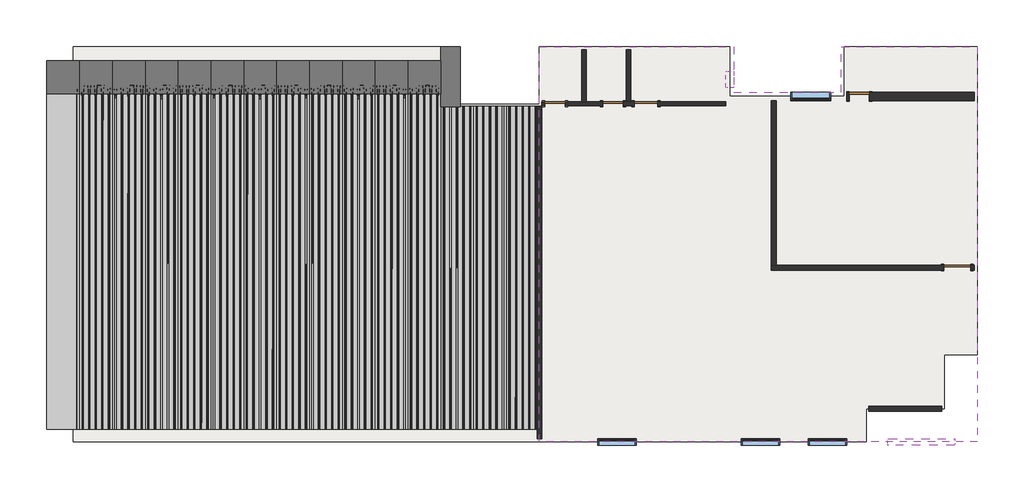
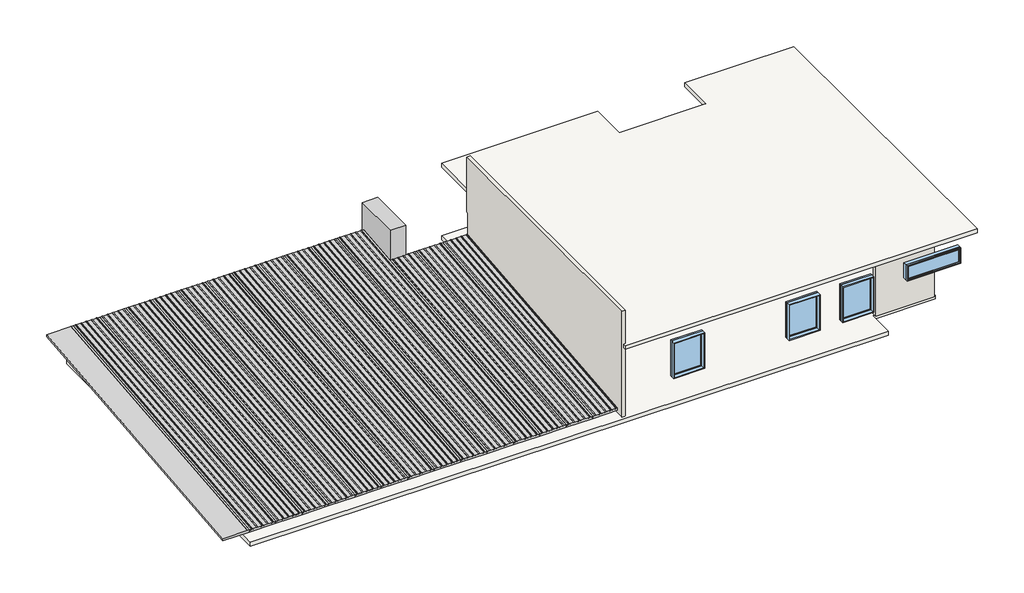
# One storey: 16 plates, 15 members, 8 walls, 6 windows, 5 doors, 2 slabs, 1 proxy.
"""IFC4 building model written with IfcOpenShell, lengths in millimetres."""

from ifc_helpers import new_model, si_unit, frame, origin, place, context, project, spatial, polyline, outline, extrude, faceted_brep, transform, mapped, element, save
from components import door_0600_x_2100mm_ea00ed2a, door_0600_x_2100mm_27d3e4cd, door_0600_x_2100mm_5e2a27a3, door_0700_x_2100mm_2c9cfd51, door_0800_x_2100mm_905e31af, rectangular_mullion_a8e6dcc2, rectangular_mullion_7b8b6f2e, rectangular_mullion_e1a64eea, rectangular_mullion_30670395, rectangular_mullion_d9d28a80, empty_system_panel_vazio_7c1384e1, empty_system_panel_vazio_a9720741, empty_system_panel_vazio_e37dec19, empty_system_panel_vazio_d884d467, empty_system_panel_vazio_d8e21128, empty_system_panel_vazio_bbd75919, empty_system_panel_vazio_9f99d891, empty_system_panel_vazio_354873e3, m_fixo_0500_x_1000mm_87394ae6, m_fixo_1150_x_1400mm_b22465d1, m_fixo_1200_x_1400mm_b9efbf31, m_fixo_2000_x_0600mm_7e42a1bc

model = new_model("IFC4")

# Units and contexts
model_context = context("Model", 3, world=origin())
ifc_project = project(units=[si_unit("LENGTHUNIT", "METRE", prefix="MILLI")], contexts=[model_context])

# Site, building, storey
site = spatial("IfcSite", under=ifc_project)
building = spatial("IfcBuilding", under=site)
storey = spatial("IfcBuildingStorey", under=building, Name="02 - 1º Andar", Elevation=3250.0)

# Proxy
placement = place(None, origin())
element("IfcBuildingElementProxy", 1, Name="Telha Metálica 02 : Telha Metálica 02", ObjectType="Telha Metálica 02 : Telha Metálica 02", at=placement, inside=storey, context=model_context, shape_type="SweptSolid", body=[
    extrude(outline(polyline([(19747.5352165, 24303.302475), (19747.5352165, 22513.302475), (19171.6023991, 22513.302475), (19171.6023991, 24303.302475), (19747.5352165, 24303.302475)])), frame((0.0, 0.0, 3340.2251626), z_axis=(0.0, 0.0, 1.0), x_axis=(1.0, 0.0, 0.0)), (0.0, 0.0, 1.0), 2245.3808667),
])

# Doors
door_0600_x_2100mm_shape = door_0600_x_2100mm_ea00ed2a(model_context)
element("IfcDoor", 2, ObjectType="M_Folha única : 0600 x 2100mm", at=placement, inside=storey, context=model_context, shape_type="MappedRepresentation", body=[
    mapped(door_0600_x_2100mm_shape, transform((31665.6750431, 22813.0875158, 3250.0), x_axis=(-1.0, 0.0, 0.0), y_axis=(0.0, -1.0, 0.0), z_axis=(0.0, 0.0, 1.0))),
])
door_0600_x_2100mm_2_shape = door_0600_x_2100mm_27d3e4cd(model_context)
element("IfcDoor", 3, ObjectType="M_Folha única : 0600 x 2100mm", at=placement, inside=storey, context=model_context, shape_type="MappedRepresentation", body=[
    mapped(door_0600_x_2100mm_2_shape, transform((22581.1496531, 22598.1995753, 3250.0), x_axis=(-1.0, 0.0, 0.0), y_axis=(0.0, -1.0, 0.0), z_axis=(0.0, 0.0, 1.0))),
])
door_0600_x_2100mm_3_shape = door_0600_x_2100mm_5e2a27a3(model_context)
element("IfcDoor", 4, ObjectType="M_Folha única : 0600 x 2100mm", at=placement, inside=storey, context=model_context, shape_type="MappedRepresentation", body=[
    mapped(door_0600_x_2100mm_3_shape, transform((24311.1496531, 22598.1995753, 3250.0), x_axis=(1.0, 0.0, 0.0), y_axis=(0.0, 1.0, 0.0), z_axis=(0.0, 0.0, 1.0))),
])
door_0700_x_2100mm_shape = door_0700_x_2100mm_2c9cfd51(model_context)
element("IfcDoor", 5, ObjectType="M_Folha única : 0700 x 2100mm", at=placement, inside=storey, context=model_context, shape_type="MappedRepresentation", body=[
    mapped(door_0700_x_2100mm_shape, transform((25291.1496531, 22598.1995753, 3250.0), x_axis=(-1.0, 0.0, 0.0), y_axis=(0.0, -1.0, 0.0), z_axis=(0.0, 0.0, 1.0))),
])
door_0800_x_2100mm_shape = door_0800_x_2100mm_905e31af(model_context)
element("IfcDoor", 6, ObjectType="M_Folha única : 0800 x 2100mm", at=placement, inside=storey, context=model_context, shape_type="MappedRepresentation", body=[
    mapped(door_0800_x_2100mm_shape, transform((34588.0559474, 17708.0875158, 3250.0), x_axis=(1.0, 0.0, 0.0), y_axis=(0.0, 1.0, 0.0), z_axis=(0.0, 0.0, 1.0))),
])

# Members
element("IfcMember", 7, ObjectType="Rectangular Mullion : Telha Metálica - Trapezoidal", at=placement, inside=storey, context=model_context, shape_type="Brep", body=[
    faceted_brep([(8828.1209607, 24210.799087, 4557.5444194), (8862.0875503, 24207.0128752, 4595.3853416), (8894.0875379, 24207.0080996, 4595.4131282), (8911.6648863, 24208.9583374, 4575.8997824), (8908.127014, 24209.3112067, 4572.3732965), (8891.8563811, 24207.5059514, 4590.436003), (8864.3274958, 24207.5100597, 4590.4120987), (8830.3609062, 24211.2962715, 4552.5711765), (8729.8898412, 24211.3112654, 4552.4839341), (8695.8564572, 24207.5352016, 4590.2658096), (8668.3275718, 24207.5393098, 4590.2419053), (8634.3609822, 24211.3255217, 4552.4009831), (8533.8899173, 24211.3405155, 4552.3137407), (8499.8565332, 24207.5644517, 4590.0956162), (8472.3276479, 24207.56856, 4590.0717119), (8438.3610583, 24211.3547718, 4552.2307897), (8337.8899933, 24211.3697657, 4552.1435473), (8308.0550909, 24208.0595308, 4585.2645137), (8308.0550909, 24207.3141283, 4592.7185389), (8340.1211501, 24210.8719139, 4557.1206726), (8436.1211128, 24210.8575873, 4557.2040326), (8470.0877024, 24207.0713755, 4595.0449548), (8502.08769, 24207.0666, 4595.0727414), (8536.121074, 24210.8426638, 4557.290866), (8632.1210367, 24210.8283371, 4557.374226), (8666.0876264, 24207.0421253, 4595.2151482), (8698.0876139, 24207.0373498, 4595.2429348), (8732.1209979, 24210.8134136, 4557.4610593), (8827.4140781, 12882.9476067, 3424.7592691), (8731.4141154, 12882.9619333, 3424.6759091), (8697.3807314, 12879.1858695, 3462.4577846), (8665.3807438, 12879.190645, 3462.4299979), (8631.4141542, 12882.9768569, 3424.5890757), (8535.4141915, 12882.9911835, 3424.5057157), (8501.3808075, 12879.2151197, 3462.2875912), (8469.3808199, 12879.2198952, 3462.2598045), (8435.4142303, 12883.006107, 3424.4188824), (8339.4142675, 12883.0204336, 3424.3355223), (8308.0550909, 12879.5410778, 3459.1486489), (8308.0550909, 12880.2864804, 3451.6946237), (8337.1831108, 12883.5182854, 3419.3583971), (8437.6541758, 12883.5032915, 3419.4456395), (8471.6207654, 12879.7170797, 3457.2865617), (8499.1496507, 12879.7129714, 3457.3104659), (8533.1830347, 12883.4890352, 3419.5285905), (8633.6540997, 12883.4740414, 3419.6158329), (8667.6206893, 12879.6878296, 3457.4567551), (8695.1495746, 12879.6837213, 3457.4806593), (8729.1829586, 12883.4597851, 3419.6987839), (8829.6540236, 12883.4447912, 3419.7860263), (8863.6206132, 12879.6585794, 3457.6269485), (8891.1494985, 12879.6544711, 3457.6508527), (8907.4201314, 12881.4597264, 3439.5881462), (8910.9580038, 12881.1068571, 3443.1146322), (8893.3806553, 12879.1566194, 3462.627978), (8861.3806677, 12879.1613949, 3462.6001913)], [[[0, 1, 2, 3, 4, 5, 6, 7, 8, 9, 10, 11, 12, 13, 14, 15, 16, 17, 18, 19, 20, 21, 22, 23, 24, 25, 26, 27]], [[28, 29, 30, 31, 32, 33, 34, 35, 36, 37, 38, 39, 40, 41, 42, 43, 44, 45, 46, 47, 48, 49, 50, 51, 52, 53, 54, 55]], [[1, 0, 28, 55]], [[2, 1, 55, 54]], [[3, 2, 54, 53]], [[4, 3, 53, 52]], [[5, 4, 52, 51]], [[6, 5, 51, 50]], [[7, 6, 50, 49]], [[8, 7, 49, 48]], [[9, 8, 48, 47]], [[10, 9, 47, 46]], [[11, 10, 46, 45]], [[12, 11, 45, 44]], [[13, 12, 44, 43]], [[14, 13, 43, 42]], [[15, 14, 42, 41]], [[16, 15, 41, 40]], [[16, 40, 39, 17]], [[37, 19, 18, 38]], [[20, 19, 37, 36]], [[21, 20, 36, 35]], [[22, 21, 35, 34]], [[23, 22, 34, 33]], [[24, 23, 33, 32]], [[25, 24, 32, 31]], [[26, 25, 31, 30]], [[27, 26, 30, 29]], [[0, 27, 29, 28]], [[18, 17, 39, 38]]]),
])
element("IfcMember", 8, ObjectType="Rectangular Mullion : Telha Metálica - Trapezoidal", at=placement, inside=storey, context=model_context, shape_type="Brep", body=[
    faceted_brep([(19117.8900143, 24211.3697657, 4552.2108168), (19083.8566303, 24207.5937019, 4589.9926923), (19056.327745, 24207.5978102, 4589.9687881), (19022.3611554, 24211.384022, 4552.1278659), (18921.8900904, 24211.3990158, 4552.0406234), (18887.8567064, 24207.622952, 4589.8224989), (18860.3278211, 24207.6270603, 4589.7985947), (18826.3612315, 24211.4132721, 4551.9576725), (18725.8901665, 24211.428266, 4551.87043), (18691.8567825, 24207.6522022, 4589.6523055), (18664.3278971, 24207.6563105, 4589.6284013), (18648.1082991, 24209.4642881, 4571.5587466), (18644.5642027, 24209.1124756, 4575.079083), (18662.0879516, 24207.159126, 4594.6016441), (18694.0879392, 24207.1543504, 4594.6294308), (18728.1213232, 24210.9304142, 4556.8475553), (18824.121286, 24210.9160876, 4556.9309153), (18858.0878756, 24207.1298758, 4594.7718375), (18890.0878631, 24207.1251003, 4594.7996242), (18924.1212471, 24210.9011641, 4557.0177487), (19020.1212099, 24210.8868375, 4557.1011087), (19054.0877995, 24207.1006257, 4594.9420309), (19086.0877871, 24207.0958501, 4594.9698176), (19120.1211711, 24210.8719139, 4557.1879421), (19171.6023991, 24210.8642311, 4557.232645), (19171.6023991, 24211.3617499, 4552.2574571), (19607.4140648, 12882.3972195, 3424.7715), (19511.414102, 12882.4115461, 3424.6881399), (19477.380718, 12878.6354823, 3462.4700154), (19445.3807304, 12878.6402579, 3462.4422287), (19411.4141408, 12882.4264697, 3424.6013066), (19315.4141781, 12882.4407963, 3424.5179465), (19281.3807941, 12878.6647325, 3462.299822), (19249.3808065, 12878.669508, 3462.2720354), (19215.4142169, 12882.4557199, 3424.4311132), (19119.4142542, 12882.4700465, 3424.3477531), (19085.3808702, 12878.6939827, 3462.1296286), (19053.3808826, 12878.6987582, 3462.101842), (19019.414293, 12882.48497, 3424.2609198), (18923.4143302, 12882.4992966, 3424.1775598), (18889.3809462, 12878.7232328, 3461.9594352), (18857.3809587, 12878.7280084, 3461.9316486), (18823.4143691, 12882.5142202, 3424.0907264), (18727.4144063, 12882.5285468, 3424.0073664), (18693.3810223, 12878.752483, 3461.7892418), (18661.3810347, 12878.7572585, 3461.7614552), (18643.8572858, 12880.7106082, 3442.2388941), (18647.4013822, 12881.0624206, 3438.7185576), (18663.6209802, 12879.254443, 3456.7882123), (18691.1498656, 12879.2503347, 3456.8121166), (18725.1832496, 12883.0263985, 3419.0302411), (18825.6543146, 12883.0114047, 3419.1174835), (18859.6209042, 12879.2251929, 3456.9584057), (18887.1497895, 12879.2210846, 3456.98231), (18921.1831735, 12882.9971484, 3419.2004345), (19021.6542385, 12882.9821545, 3419.2876769), (19055.6208281, 12879.1959427, 3457.1285991), (19083.1497134, 12879.1918344, 3457.1525034), (19117.1830974, 12882.9678982, 3419.3706279), (19217.6541624, 12882.9529044, 3419.4578703), (19251.620752, 12879.1666925, 3457.2987925), (19279.1496373, 12879.1625843, 3457.3226968), (19313.1830213, 12882.9386481, 3419.5408213), (19413.6540863, 12882.9236542, 3419.6280637), (19447.6206759, 12879.1374424, 3457.4689859), (19475.1495613, 12879.1333341, 3457.4928902), (19509.1829453, 12882.9093979, 3419.7110147), (19609.6540103, 12882.894404, 3419.7982571), (19643.6205999, 12879.1081922, 3457.6391793), (19671.1494852, 12879.1040839, 3457.6630836), (19687.4201181, 12880.9093393, 3439.6003771), (19690.9579904, 12880.5564699, 3443.126863), (19673.3806419, 12878.6062322, 3462.6402088), (19641.3806544, 12878.6110077, 3462.6124221), (19641.9818801, 22513.302475, 4426.0815707), (19608.0150542, 22513.302475, 4387.8620274), (19673.9818679, 22513.302475, 4426.109835), (19691.5590947, 22513.302475, 4406.4014654), (19688.0212003, 22513.302475, 4402.8396925), (19671.7506801, 22513.302475, 4421.0829245), (19644.2217945, 22513.302475, 4421.0586094), (19610.2549687, 22513.302475, 4382.8390661), (19509.7839027, 22513.302475, 4382.7503243), (19475.7507544, 22513.302475, 4420.9098061), (19448.2218688, 22513.302475, 4420.885491), (19414.2550429, 22513.302475, 4382.6659477), (19313.783977, 22513.302475, 4382.5772059), (19279.7508286, 22513.302475, 4420.7366877), (19252.221943, 22513.302475, 4420.7123726), (19218.2551172, 22513.302475, 4382.4928293), (19171.6023991, 22513.302475, 4382.4516229), (19216.0152027, 22513.302475, 4387.5157906), (19171.6023991, 22513.302475, 4387.4765626), (19249.9820286, 22513.302475, 4425.7353339), (19281.9820164, 22513.302475, 4425.7635982), (19316.0151648, 22513.302475, 4387.6041163), (19412.0151284, 22513.302475, 4387.688909), (19445.9819543, 22513.302475, 4425.9084523), (19477.9819422, 22513.302475, 4425.9367166), (19512.0150906, 22513.302475, 4387.7772347)], [[[0, 1, 2, 3, 4, 5, 6, 7, 8, 9, 10, 11, 12, 13, 14, 15, 16, 17, 18, 19, 20, 21, 22, 23, 24, 25]], [[26, 27, 28, 29, 30, 31, 32, 33, 34, 35, 36, 37, 38, 39, 40, 41, 42, 43, 44, 45, 46, 47, 48, 49, 50, 51, 52, 53, 54, 55, 56, 57, 58, 59, 60, 61, 62, 63, 64, 65, 66, 67, 68, 69, 70, 71, 72, 73]], [[26, 73, 74, 75]], [[73, 72, 76, 74]], [[72, 71, 77, 76]], [[71, 70, 78, 77]], [[70, 69, 79, 78]], [[69, 68, 80, 79]], [[68, 67, 81, 80]], [[67, 66, 82, 81]], [[66, 65, 83, 82]], [[65, 64, 84, 83]], [[64, 63, 85, 84]], [[63, 62, 86, 85]], [[62, 61, 87, 86]], [[61, 60, 88, 87]], [[60, 59, 89, 88]], [[59, 58, 0, 25, 90, 89]], [[1, 0, 58, 57]], [[2, 1, 57, 56]], [[3, 2, 56, 55]], [[4, 3, 55, 54]], [[5, 4, 54, 53]], [[6, 5, 53, 52]], [[7, 6, 52, 51]], [[8, 7, 51, 50]], [[9, 8, 50, 49]], [[10, 9, 49, 48]], [[11, 10, 48, 47]], [[12, 11, 47, 46]], [[13, 12, 46, 45]], [[14, 13, 45, 44]], [[15, 14, 44, 43]], [[16, 15, 43, 42]], [[17, 16, 42, 41]], [[18, 17, 41, 40]], [[19, 18, 40, 39]], [[20, 19, 39, 38]], [[21, 20, 38, 37]], [[22, 21, 37, 36]], [[23, 22, 36, 35]], [[35, 34, 91, 92, 24, 23]], [[34, 33, 93, 91]], [[33, 32, 94, 93]], [[32, 31, 95, 94]], [[31, 30, 96, 95]], [[30, 29, 97, 96]], [[29, 28, 98, 97]], [[28, 27, 99, 98]], [[27, 26, 75, 99]], [[92, 90, 25, 24]], [[90, 92, 91, 93, 94, 95, 96, 97, 98, 99, 75, 74, 76, 77, 78, 79, 80, 81, 82, 83, 84, 85, 86, 87, 88, 89]]]),
])
element("IfcMember", 9, ObjectType="Rectangular Mullion : Telha Metálica - Trapezoidal", at=placement, inside=storey, context=model_context, shape_type="Brep", body=[
    faceted_brep([(22023.7511764, 22517.5937019, 4421.0110382), (21996.222291, 22517.5978102, 4420.987134), (21962.2557014, 22521.384022, 4383.1462118), (21861.7846364, 22521.3990158, 4383.0589694), (21827.7512524, 22517.622952, 4420.8408448), (21800.2223671, 22517.6270603, 4420.8169406), (21766.2557775, 22521.4132721, 4382.9760184), (21665.7847125, 22521.428266, 4382.888776), (21631.7513285, 22517.6522022, 4420.6706514), (21604.2224432, 22517.6563105, 4420.6467472), (21588.0028452, 22519.4642881, 4402.5770925), (21584.4587487, 22519.1124756, 4406.0974289), (21601.9824977, 22517.159126, 4425.61999), (21633.9824853, 22517.1543504, 4425.6477767), (21668.0158693, 22520.9304142, 4387.8659012), (21764.015832, 22520.9160876, 4387.9492613), (21797.9824216, 22517.1298758, 4425.7901834), (21829.9824092, 22517.1251003, 4425.8179701), (21864.0157932, 22520.9011641, 4388.0360946), (21960.0157559, 22520.8868375, 4388.1194546), (21993.9823455, 22517.1006257, 4425.9603768), (22025.9823331, 22517.0958501, 4425.9881635), (22051.1496531, 22519.8882085, 4398.0488745), (22051.1496532, 22520.633611, 4390.5948493), (22025.3808644, 12878.5105203, 3462.1296286), (21993.3808769, 12878.5152958, 3462.101842), (21959.4142873, 12882.3015076, 3424.2609198), (21863.4143245, 12882.3158342, 3424.1775598), (21829.3809405, 12878.5397704, 3461.9594352), (21797.3809529, 12878.544546, 3461.9316486), (21763.4143633, 12882.3307578, 3424.0907264), (21667.4144006, 12882.3450844, 3424.0073664), (21633.3810166, 12878.5690206, 3461.7892418), (21601.381029, 12878.5737961, 3461.7614552), (21583.85728, 12880.5271458, 3442.2388941), (21587.4013765, 12880.8789583, 3438.7185576), (21603.6209745, 12879.0709806, 3456.7882123), (21631.1498598, 12879.0668724, 3456.8121166), (21665.1832438, 12882.8429362, 3419.0302411), (21765.6543088, 12882.8279423, 3419.1174835), (21799.6208984, 12879.0417305, 3456.9584057), (21827.1497838, 12879.0376222, 3456.98231), (21861.1831678, 12882.813686, 3419.2004345), (21961.6542328, 12882.7986921, 3419.2876769), (21995.6208224, 12879.0124803, 3457.1285991), (22023.1497077, 12879.008372, 3457.1525034), (22051.1496531, 12882.1150152, 3426.068599), (22051.1496531, 12881.3696127, 3433.5226242)], [[[0, 1, 2, 3, 4, 5, 6, 7, 8, 9, 10, 11, 12, 13, 14, 15, 16, 17, 18, 19, 20, 21, 22, 23]], [[24, 25, 26, 27, 28, 29, 30, 31, 32, 33, 34, 35, 36, 37, 38, 39, 40, 41, 42, 43, 44, 45, 46, 47]], [[45, 0, 23, 46]], [[1, 0, 45, 44]], [[2, 1, 44, 43]], [[3, 2, 43, 42]], [[4, 3, 42, 41]], [[5, 4, 41, 40]], [[6, 5, 40, 39]], [[7, 6, 39, 38]], [[8, 7, 38, 37]], [[9, 8, 37, 36]], [[10, 9, 36, 35]], [[11, 10, 35, 34]], [[12, 11, 34, 33]], [[13, 12, 33, 32]], [[14, 13, 32, 31]], [[15, 14, 31, 30]], [[16, 15, 30, 29]], [[17, 16, 29, 28]], [[18, 17, 28, 27]], [[19, 18, 27, 26]], [[20, 19, 26, 25]], [[21, 20, 25, 24]], [[21, 24, 47, 22]], [[23, 22, 47, 46]]]),
])
rectangular_mullion_shape = rectangular_mullion_a8e6dcc2(model_context)
element("IfcMember", 10, ObjectType="Rectangular Mullion : Telha Metálica - Trapezoidal", at=placement, inside=storey, context=model_context, shape_type="MappedRepresentation", body=[
    mapped(rectangular_mullion_shape, transform((9368.054339, 24203.302475, 4632.7912656), x_axis=(0.9999999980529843, -6.240217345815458e-05, 0.0), y_axis=(6.209248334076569e-06, 0.09950371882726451, -0.9950371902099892), z_axis=(6.209248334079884e-05, 0.9950371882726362, 0.09950371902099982))),
])
element("IfcMember", 11, ObjectType="Rectangular Mullion : Telha Metálica - Trapezoidal", at=placement, inside=storey, context=model_context, shape_type="MappedRepresentation", body=[
    mapped(rectangular_mullion_shape, transform((10348.0543409, 24203.302475, 4632.7973811), x_axis=(0.9999999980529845, -6.240217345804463e-05, 0.0), y_axis=(6.209248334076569e-06, 0.09950371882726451, -0.9950371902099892), z_axis=(6.209248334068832e-05, 0.9950371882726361, 0.0995037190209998))),
])
rectangular_mullion_2_shape = rectangular_mullion_7b8b6f2e(model_context)
element("IfcMember", 12, ObjectType="Rectangular Mullion : Telha Metálica - Trapezoidal", at=placement, inside=storey, context=model_context, shape_type="MappedRepresentation", body=[
    mapped(rectangular_mullion_2_shape, transform((11328.0543428, 24203.302475, 4632.8034965), x_axis=(0.9999999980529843, -6.240217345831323e-05, 0.0), y_axis=(6.209248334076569e-06, 0.0995037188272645, -0.9950371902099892), z_axis=(6.209248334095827e-05, 0.9950371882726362, 0.0995037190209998))),
])
element("IfcMember", 13, ObjectType="Rectangular Mullion : Telha Metálica - Trapezoidal", at=placement, inside=storey, context=model_context, shape_type="MappedRepresentation", body=[
    mapped(rectangular_mullion_2_shape, transform((12308.0543447, 24203.302475, 4632.8096119), x_axis=(0.9999999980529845, -6.240217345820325e-05, 0.0), y_axis=(6.20924833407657e-06, 0.09950371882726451, -0.9950371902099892), z_axis=(6.209248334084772e-05, 0.9950371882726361, 0.0995037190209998))),
])
element("IfcMember", 14, ObjectType="Rectangular Mullion : Telha Metálica - Trapezoidal", at=placement, inside=storey, context=model_context, shape_type="MappedRepresentation", body=[
    mapped(rectangular_mullion_2_shape, transform((13288.0543466, 24203.302475, 4632.8157273), x_axis=(0.9999999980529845, -6.240217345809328e-05, 0.0), y_axis=(6.20924833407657e-06, 0.09950371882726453, -0.9950371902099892), z_axis=(6.209248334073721e-05, 0.9950371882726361, 0.09950371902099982))),
])
rectangular_mullion_3_shape = rectangular_mullion_e1a64eea(model_context)
element("IfcMember", 15, ObjectType="Rectangular Mullion : Telha Metálica - Trapezoidal", at=placement, inside=storey, context=model_context, shape_type="MappedRepresentation", body=[
    mapped(rectangular_mullion_3_shape, transform((14268.0543485, 24203.302475, 4632.8218427), x_axis=(0.9999999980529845, -6.240217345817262e-05, 0.0), y_axis=(6.20924833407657e-06, 0.09950371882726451, -0.995037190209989), z_axis=(6.209248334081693e-05, 0.995037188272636, 0.0995037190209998))),
])
element("IfcMember", 16, ObjectType="Rectangular Mullion : Telha Metálica - Trapezoidal", at=placement, inside=storey, context=model_context, shape_type="MappedRepresentation", body=[
    mapped(rectangular_mullion_3_shape, transform((15248.0543504, 24203.302475, 4632.8279581), x_axis=(0.9999999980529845, -6.24021734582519e-05, 0.0), y_axis=(6.209248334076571e-06, 0.09950371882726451, -0.9950371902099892), z_axis=(6.209248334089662e-05, 0.9950371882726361, 0.0995037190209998))),
])
element("IfcMember", 17, ObjectType="Rectangular Mullion : Telha Metálica - Trapezoidal", at=placement, inside=storey, context=model_context, shape_type="MappedRepresentation", body=[
    mapped(rectangular_mullion_3_shape, transform((16228.0543523, 24203.302475, 4632.8340735), x_axis=(0.9999999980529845, -6.240217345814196e-05, 0.0), y_axis=(6.209248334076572e-06, 0.09950371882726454, -0.995037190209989), z_axis=(6.209248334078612e-05, 0.995037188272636, 0.09950371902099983))),
])
rectangular_mullion_4_shape = rectangular_mullion_30670395(model_context)
element("IfcMember", 18, ObjectType="Rectangular Mullion : Telha Metálica - Trapezoidal", at=placement, inside=storey, context=model_context, shape_type="MappedRepresentation", body=[
    mapped(rectangular_mullion_4_shape, transform((17208.0543542, 24203.302475, 4632.840189), x_axis=(0.9999999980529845, -6.240217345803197e-05, 0.0), y_axis=(6.20924833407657e-06, 0.09950371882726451, -0.9950371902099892), z_axis=(6.209248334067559e-05, 0.9950371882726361, 0.0995037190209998))),
])
element("IfcMember", 19, ObjectType="Rectangular Mullion : Telha Metálica - Trapezoidal", at=placement, inside=storey, context=model_context, shape_type="MappedRepresentation", body=[
    mapped(rectangular_mullion_4_shape, transform((18188.0543561, 24203.302475, 4632.8463044), x_axis=(0.9999999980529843, -6.240217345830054e-05, 0.0), y_axis=(6.2092483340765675e-06, 0.09950371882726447, -0.9950371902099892), z_axis=(6.209248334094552e-05, 0.9950371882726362, 0.09950371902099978))),
])
rectangular_mullion_5_shape = rectangular_mullion_d9d28a80(model_context)
element("IfcMember", 20, ObjectType="Rectangular Mullion : Telha Metálica - Trapezoidal", at=placement, inside=storey, context=model_context, shape_type="MappedRepresentation", body=[
    mapped(rectangular_mullion_5_shape, transform((20147.9489003, 22513.302475, 4463.8585349), x_axis=(0.9999999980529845, -6.240217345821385e-05, 0.0), y_axis=(6.20924833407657e-06, 0.09950371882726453, -0.9950371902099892), z_axis=(6.209248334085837e-05, 0.9950371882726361, 0.09950371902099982))),
])
element("IfcMember", 21, ObjectType="Rectangular Mullion : Telha Metálica - Trapezoidal", at=placement, inside=storey, context=model_context, shape_type="MappedRepresentation", body=[
    mapped(rectangular_mullion_5_shape, transform((21127.9489022, 22513.302475, 4463.8646503), x_axis=(0.9999999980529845, -6.240217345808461e-05, 0.0), y_axis=(6.209248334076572e-06, 0.09950371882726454, -0.9950371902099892), z_axis=(6.20924833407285e-05, 0.9950371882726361, 0.09950371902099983))),
])

# Plates
empty_system_panel_vazio_shape = empty_system_panel_vazio_7c1384e1(model_context)
element("IfcPlate", 22, ObjectType="Empty System Panel : Vazio", at=placement, inside=storey, context=model_context, shape_type="MappedRepresentation", body=[
    mapped(empty_system_panel_vazio_shape, transform((7897.3474553, 12875.4815718, 3500.0), x_axis=(0.9999999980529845, -6.240217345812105e-05, 0.0), y_axis=(6.209248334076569e-06, 0.09950371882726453, -0.9950371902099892), z_axis=(6.209248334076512e-05, 0.9950371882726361, 0.0995037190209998))),
])
empty_system_panel_vazio_2_shape = empty_system_panel_vazio_a9720741(model_context)
element("IfcPlate", 23, ObjectType="Empty System Panel : Vazio", at=placement, inside=storey, context=model_context, shape_type="MappedRepresentation", body=[
    mapped(empty_system_panel_vazio_2_shape, transform((8877.3474535, 12875.4204177, 3500.0), x_axis=(0.9999999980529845, -6.240217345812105e-05, 0.0), y_axis=(6.209248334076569e-06, 0.09950371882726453, -0.9950371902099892), z_axis=(6.209248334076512e-05, 0.9950371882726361, 0.0995037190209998))),
])
element("IfcPlate", 24, ObjectType="Empty System Panel : Vazio", at=placement, inside=storey, context=model_context, shape_type="MappedRepresentation", body=[
    mapped(empty_system_panel_vazio_2_shape, transform((9857.3474516, 12875.3592635, 3500.0), x_axis=(0.9999999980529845, -6.240217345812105e-05, 0.0), y_axis=(6.209248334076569e-06, 0.09950371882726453, -0.9950371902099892), z_axis=(6.209248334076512e-05, 0.9950371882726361, 0.0995037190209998))),
])
element("IfcPlate", 25, ObjectType="Empty System Panel : Vazio", at=placement, inside=storey, context=model_context, shape_type="MappedRepresentation", body=[
    mapped(empty_system_panel_vazio_2_shape, transform((10837.3474497, 12875.2981094, 3500.0), x_axis=(0.9999999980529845, -6.240217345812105e-05, 0.0), y_axis=(6.209248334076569e-06, 0.09950371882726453, -0.9950371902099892), z_axis=(6.209248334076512e-05, 0.9950371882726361, 0.0995037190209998))),
])
empty_system_panel_vazio_3_shape = empty_system_panel_vazio_e37dec19(model_context)
element("IfcPlate", 26, ObjectType="Empty System Panel : Vazio", at=placement, inside=storey, context=model_context, shape_type="MappedRepresentation", body=[
    mapped(empty_system_panel_vazio_3_shape, transform((11817.3474478, 12875.2369553, 3500.0), x_axis=(0.9999999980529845, -6.240217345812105e-05, 0.0), y_axis=(6.209248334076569e-06, 0.09950371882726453, -0.9950371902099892), z_axis=(6.209248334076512e-05, 0.9950371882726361, 0.0995037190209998))),
])
element("IfcPlate", 27, ObjectType="Empty System Panel : Vazio", at=placement, inside=storey, context=model_context, shape_type="MappedRepresentation", body=[
    mapped(empty_system_panel_vazio_3_shape, transform((12797.3474459, 12875.1758011, 3500.0), x_axis=(0.9999999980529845, -6.240217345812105e-05, 0.0), y_axis=(6.209248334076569e-06, 0.09950371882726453, -0.9950371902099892), z_axis=(6.209248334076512e-05, 0.9950371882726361, 0.0995037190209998))),
])
element("IfcPlate", 28, ObjectType="Empty System Panel : Vazio", at=placement, inside=storey, context=model_context, shape_type="MappedRepresentation", body=[
    mapped(empty_system_panel_vazio_3_shape, transform((13777.347444, 12875.114647, 3500.0), x_axis=(0.9999999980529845, -6.240217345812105e-05, 0.0), y_axis=(6.209248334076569e-06, 0.09950371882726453, -0.9950371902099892), z_axis=(6.209248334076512e-05, 0.9950371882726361, 0.0995037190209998))),
])
empty_system_panel_vazio_4_shape = empty_system_panel_vazio_d884d467(model_context)
element("IfcPlate", 29, ObjectType="Empty System Panel : Vazio", at=placement, inside=storey, context=model_context, shape_type="MappedRepresentation", body=[
    mapped(empty_system_panel_vazio_4_shape, transform((14757.3474421, 12875.0534929, 3500.0), x_axis=(0.9999999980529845, -6.240217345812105e-05, 0.0), y_axis=(6.209248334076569e-06, 0.09950371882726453, -0.9950371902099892), z_axis=(6.209248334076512e-05, 0.9950371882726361, 0.0995037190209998))),
])
element("IfcPlate", 30, ObjectType="Empty System Panel : Vazio", at=placement, inside=storey, context=model_context, shape_type="MappedRepresentation", body=[
    mapped(empty_system_panel_vazio_4_shape, transform((15737.3474402, 12874.9923387, 3500.0), x_axis=(0.9999999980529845, -6.240217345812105e-05, 0.0), y_axis=(6.209248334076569e-06, 0.09950371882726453, -0.9950371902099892), z_axis=(6.209248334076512e-05, 0.9950371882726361, 0.0995037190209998))),
])
element("IfcPlate", 31, ObjectType="Empty System Panel : Vazio", at=placement, inside=storey, context=model_context, shape_type="MappedRepresentation", body=[
    mapped(empty_system_panel_vazio_4_shape, transform((16717.3474383, 12874.9311846, 3500.0), x_axis=(0.9999999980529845, -6.240217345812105e-05, 0.0), y_axis=(6.209248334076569e-06, 0.09950371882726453, -0.9950371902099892), z_axis=(6.209248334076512e-05, 0.9950371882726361, 0.0995037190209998))),
])
empty_system_panel_vazio_5_shape = empty_system_panel_vazio_d8e21128(model_context)
element("IfcPlate", 32, ObjectType="Empty System Panel : Vazio", at=placement, inside=storey, context=model_context, shape_type="MappedRepresentation", body=[
    mapped(empty_system_panel_vazio_5_shape, transform((17697.3474364, 12874.8700305, 3500.0), x_axis=(0.9999999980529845, -6.240217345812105e-05, 0.0), y_axis=(6.209248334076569e-06, 0.09950371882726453, -0.9950371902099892), z_axis=(6.209248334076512e-05, 0.9950371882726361, 0.0995037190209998))),
])
element("IfcPlate", 33, ObjectType="Empty System Panel : Vazio", at=placement, inside=storey, context=model_context, shape_type="MappedRepresentation", body=[
    mapped(empty_system_panel_vazio_5_shape, transform((18677.3474345, 12874.8088764, 3500.0), x_axis=(0.9999999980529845, -6.240217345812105e-05, 0.0), y_axis=(6.209248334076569e-06, 0.09950371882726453, -0.9950371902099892), z_axis=(6.209248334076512e-05, 0.9950371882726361, 0.0995037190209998))),
])
empty_system_panel_vazio_6_shape = empty_system_panel_vazio_bbd75919(model_context)
element("IfcPlate", 34, ObjectType="Empty System Panel : Vazio", at=placement, inside=storey, context=model_context, shape_type="MappedRepresentation", body=[
    mapped(empty_system_panel_vazio_6_shape, transform((19657.3474326, 12874.7477222, 3500.0), x_axis=(0.9999999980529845, -6.240217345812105e-05, 0.0), y_axis=(6.209248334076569e-06, 0.09950371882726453, -0.9950371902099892), z_axis=(6.209248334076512e-05, 0.9950371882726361, 0.0995037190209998))),
])
empty_system_panel_vazio_7_shape = empty_system_panel_vazio_9f99d891(model_context)
element("IfcPlate", 35, ObjectType="Empty System Panel : Vazio", at=placement, inside=storey, context=model_context, shape_type="MappedRepresentation", body=[
    mapped(empty_system_panel_vazio_7_shape, transform((20637.3474306, 12874.6865681, 3500.0), x_axis=(0.9999999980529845, -6.240217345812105e-05, 0.0), y_axis=(6.209248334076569e-06, 0.09950371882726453, -0.9950371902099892), z_axis=(6.209248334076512e-05, 0.9950371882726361, 0.0995037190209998))),
])
element("IfcPlate", 36, ObjectType="Empty System Panel : Vazio", at=placement, inside=storey, context=model_context, shape_type="MappedRepresentation", body=[
    mapped(empty_system_panel_vazio_7_shape, transform((21617.3474287, 12874.625414, 3500.0), x_axis=(0.9999999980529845, -6.240217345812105e-05, 0.0), y_axis=(6.209248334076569e-06, 0.09950371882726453, -0.9950371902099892), z_axis=(6.209248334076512e-05, 0.9950371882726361, 0.0995037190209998))),
])
empty_system_panel_vazio_8_shape = empty_system_panel_vazio_354873e3(model_context)
element("IfcPlate", 37, ObjectType="Empty System Panel : Vazio", at=placement, inside=storey, context=model_context, shape_type="MappedRepresentation", body=[
    mapped(empty_system_panel_vazio_8_shape, transform((22144.0714407, 12874.5925452, 3500.0), x_axis=(0.9999999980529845, -6.240217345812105e-05, 0.0), y_axis=(6.209248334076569e-06, 0.09950371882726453, -0.9950371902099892), z_axis=(6.209248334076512e-05, 0.9950371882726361, 0.0995037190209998))),
])

# Slabs
element("IfcSlab", 38, ObjectType="Genérico 150 mm", at=placement, inside=storey, context=model_context, shape_type="SweptSolid", body=[
    extrude(outline(polyline([(19246.6230896, 24303.302475), (19246.5770134, 22588.302475), (22116.1496531, 22588.302475), (22116.1496531, 24303.1818784), (27791.4949644, 24303.1818784), (27791.4949644, 22813.0875158), (31205.8089351, 22813.0875158), (31205.8089351, 24303.2657362), (35188.0559474, 24303.2657362), (35188.0559474, 15103.3334577), (34193.0559474, 15103.3334577), (34193.0559474, 13498.3334577), (31872.1313552, 13498.3334577), (31872.1313552, 12503.3942492), (8207.8656976, 12504.8144614), (8207.8656976, 24303.302475), (19246.6230896, 24303.302475)])), frame((0.0, 0.0, 3100.0), z_axis=(0.0, 0.0, 1.0), x_axis=(1.0, 0.0, 0.0)), (0.0, 0.0, 1.0), 150.0),
])
element("IfcSlab", 39, ObjectType="Genérico 150 mm", at=placement, inside=storey, context=model_context, shape_type="SweptSolid", body=[
    extrude(outline(polyline([(22116.1496531, 12503.6563593), (22116.1496531, 24303.234237), (27911.4949659, 24303.234237), (27911.4581547, 22933.0875158), (31130.8657799, 22933.0875158), (31130.8657799, 24303.302475), (35188.0559474, 24303.302475), (35188.0559474, 12503.3051617), (22116.1496531, 12503.6563593)])), frame((0.0, 0.0, 5950.0), z_axis=(0.0, 0.0, 1.0), x_axis=(1.0, 0.0, 0.0)), (0.0, 0.0, 1.0), 150.0),
])

# Walls
element("IfcWall", 40, ObjectType="Genérico - 240 mm", at=placement, inside=storey, context=model_context, shape_type="SweptSolid", body=[
    extrude(outline(polyline([(3250.0, 31281.4517067), (3250.0, 31365.6750431), (5350.0, 31365.6750431), (5350.0, 31965.6750431), (3250.0, 31965.6750431), (3250.0, 35088.0559474), (5950.0, 35088.0559474), (5950.0, 31281.4517067), (3250.0, 31281.4517067)])), frame((0.0, 22693.0875158, 0.0), z_axis=(0.0, 1.0, 0.0), x_axis=(0.0, 0.0, 1.0)), (0.0, 0.0, 1.0), 240.0),
])
element("IfcWall", 41, ObjectType="Genérico - 150 mm", at=placement, inside=storey, context=model_context, shape_type="Brep", body=[
    faceted_brep([(31947.1313552, 13423.3334577, 3250.0), (34118.0559474, 13423.3334577, 3250.0), (34118.0559474, 13423.3334577, 4320.0), (34118.0559474, 13423.3334577, 5950.0), (31947.1313552, 13423.3334577, 5950.0), (31947.1313552, 13573.3334577, 3250.0), (31947.1313552, 13573.3334577, 5950.0), (34118.0559474, 13573.3334577, 5950.0), (34118.0559474, 13573.3334577, 3250.0)], [[[0, 1, 2, 3, 4]], [[5, 6, 7, 8]], [[1, 0, 5, 8]], [[0, 4, 6, 5]], [[3, 2, 1, 8, 7]], [[4, 3, 7, 6]]]),
])
element("IfcWall", 42, ObjectType="Genérico - 150 mm", at=placement, inside=storey, context=model_context, shape_type="Brep", body=[
    faceted_brep([(35088.0559474, 17783.0875158, 3250.0), (34988.0559474, 17783.0875158, 3250.0), (34988.0559474, 17783.0875158, 5350.0), (34188.0559474, 17783.0875158, 5350.0), (34188.0559474, 17783.0875158, 3250.0), (29188.0559474, 17783.0875158, 3250.0), (29038.0559474, 17783.0875158, 3250.0), (29038.0559474, 17783.0875158, 5950.0), (29188.0559474, 17783.0875158, 5950.0), (35088.0559474, 17783.0875158, 5950.0), (34988.0559474, 17633.0875158, 5350.0), (34988.0559474, 17633.0875158, 3250.0), (35088.0559474, 17633.0875158, 3250.0), (35088.0559474, 17633.0875158, 5950.0), (29038.0559474, 17633.0875158, 5950.0), (29038.0559474, 17633.0875158, 3250.0), (34188.0559474, 17633.0875158, 3250.0), (34188.0559474, 17633.0875158, 5350.0)], [[[0, 1, 2, 3, 4, 5, 6, 7, 8, 9]], [[10, 11, 12, 13, 14, 15, 16, 17]], [[16, 15, 6, 5, 4]], [[12, 11, 1, 0]], [[0, 9, 13, 12]], [[7, 6, 15, 14]], [[2, 1, 11, 10]], [[3, 2, 10, 17]], [[4, 3, 17, 16]], [[9, 8, 7, 14, 13]]]),
])
element("IfcWall", 43, ObjectType="Genérico - 130 mm", at=placement, inside=storey, context=model_context, shape_type="Brep", body=[
    faceted_brep([(24611.1496531, 22533.1995753, 3250.0), (24941.1496531, 22533.1995753, 3250.0), (24941.1496531, 22533.1995753, 5350.0), (25641.1496531, 22533.1995753, 5350.0), (25641.1496531, 22533.1995753, 3250.0), (27671.447411, 22533.1995753, 3250.0), (27671.447411, 22533.1995753, 5950.0), (22181.1496531, 22533.1995753, 5950.0), (22181.1496531, 22533.1995753, 3250.0), (22281.1496531, 22533.1995753, 3250.0), (22281.1496531, 22533.1995753, 5350.0), (22881.1496531, 22533.1995753, 5350.0), (22881.1496531, 22533.1995753, 3250.0), (24011.1496531, 22533.1995753, 3250.0), (24011.1496531, 22533.1995753, 5350.0), (24611.1496531, 22533.1995753, 5350.0), (24941.1496531, 22663.1995753, 5350.0), (24941.1496531, 22663.1995753, 3250.0), (24841.1496531, 22663.1995753, 3250.0), (24711.1496531, 22663.1995753, 3250.0), (24611.1496531, 22663.1995753, 3250.0), (24611.1496531, 22663.1995753, 5350.0), (24011.1496531, 22663.1995753, 5350.0), (24011.1496531, 22663.1995753, 3250.0), (23511.1496531, 22663.1995753, 3250.0), (23381.1496531, 22663.1995753, 3250.0), (22881.1496531, 22663.1995753, 3250.0), (22881.1496531, 22663.1995753, 5350.0), (22281.1496531, 22663.1995753, 5350.0), (22281.1496531, 22663.1995753, 3250.0), (22181.1496531, 22663.1995753, 3250.0), (22181.1496531, 22663.1995753, 5950.0), (23381.1496531, 22663.1995753, 5950.0), (23511.1496531, 22663.1995753, 5950.0), (24711.1496531, 22663.1995753, 5950.0), (24841.1496531, 22663.1995753, 5950.0), (27671.4509037, 22663.1995753, 5950.0), (27671.4509037, 22663.1995753, 3250.0), (25641.1496531, 22663.1995753, 3250.0), (25641.1496531, 22663.1995753, 5350.0)], [[[0, 1, 2, 3, 4, 5, 6, 7, 8, 9, 10, 11, 12, 13, 14, 15]], [[16, 17, 18, 19, 20, 21, 22, 23, 24, 25, 26, 27, 28, 29, 30, 31, 32, 33, 34, 35, 36, 37, 38, 39]], [[30, 29, 9, 8]], [[13, 12, 26, 25, 24, 23]], [[38, 37, 5, 4]], [[20, 19, 18, 17, 1, 0]], [[8, 7, 31, 30]], [[6, 5, 37, 36]], [[10, 9, 29, 28]], [[11, 10, 28, 27]], [[12, 11, 27, 26]], [[21, 20, 0, 15]], [[22, 21, 15, 14]], [[23, 22, 14, 13]], [[2, 1, 17, 16]], [[3, 2, 16, 39]], [[4, 3, 39, 38]], [[7, 6, 36, 35, 34, 33, 32, 31]]]),
])
element("IfcWall", 44, ObjectType="Genérico - 130 mm", at=placement, inside=storey, context=model_context, shape_type="SweptSolid", body=[
    extrude(outline(polyline([(23381.1496531, 22663.1995753), (23381.1496531, 24203.1935488), (23511.1496531, 24203.1947481), (23511.1496531, 22663.1995753), (23381.1496531, 22663.1995753)])), frame((0.0, 0.0, 3250.0), z_axis=(0.0, 0.0, 1.0), x_axis=(1.0, 0.0, 0.0)), (0.0, 0.0, 1.0), 2700.0),
])
element("IfcWall", 45, ObjectType="Genérico - 130 mm", at=placement, inside=storey, context=model_context, shape_type="SweptSolid", body=[
    extrude(outline(polyline([(24711.1496531, 22663.1995753), (24711.1496531, 24203.2058189), (24841.1496531, 24203.2070182), (24841.1496531, 22663.1995753), (24711.1496531, 22663.1995753)])), frame((0.0, 0.0, 3250.0), z_axis=(0.0, 0.0, 1.0), x_axis=(1.0, 0.0, 0.0)), (0.0, 0.0, 1.0), 2700.0),
])
element("IfcWall", 46, ObjectType="Genérico - 150 mm", at=placement, inside=storey, context=model_context, shape_type="SweptSolid", body=[
    extrude(outline(polyline([(29188.0559474, 22693.0875158), (29188.0559474, 17783.0875158), (29038.0559474, 17783.0875158), (29038.0559474, 22693.0875158), (29188.0559474, 22693.0875158)])), frame((0.0, 0.0, 3250.0), z_axis=(0.0, 0.0, 1.0), x_axis=(1.0, 0.0, 0.0)), (0.0, 0.0, 1.0), 2700.0),
])
element("IfcWall", 47, ObjectType="Genérico - 130 mm", at=placement, inside=storey, context=model_context, shape_type="Brep", body=[
    faceted_brep([(22051.1496531, 22513.302475, 3250.0), (22051.1496531, 12603.6581056, 3250.0), (22051.1496531, 12603.6581056, 7400.0), (22051.1496531, 22588.3024663, 7400.0), (22051.1496531, 22588.3024663, 5250.0), (22051.1496531, 22513.302475, 5250.0), (22181.1496531, 22513.302475, 3250.0), (22181.1496531, 22513.302475, 5250.0), (22181.1496531, 22588.3024663, 5250.0), (22181.1496531, 22588.3024663, 7400.0), (22181.1496531, 12603.654613, 7400.0), (22181.1496531, 12603.654613, 3250.0)], [[[0, 1, 2, 3, 4, 5]], [[6, 7, 8, 9, 10, 11]], [[1, 0, 6, 11]], [[3, 2, 10, 9]], [[2, 1, 11, 10]], [[4, 8, 7, 5]], [[0, 5, 7, 6]], [[3, 9, 8, 4]]]),
])

# Windows
m_fixo_0500_x_1000mm_shape = m_fixo_0500_x_1000mm_87394ae6(model_context)
element("IfcWindow", 48, ObjectType="M_Fixo : 0500 x 1000mm", at=placement, inside=storey, context=model_context, shape_type="MappedRepresentation", body=[
    mapped(m_fixo_0500_x_1000mm_shape, transform((27804.4685795, 23321.1085926, 3250.0), x_axis=(-2.6866593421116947e-05, -0.9999999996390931, 0.0), y_axis=(0.9999999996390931, -2.6866593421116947e-05, 0.0), z_axis=(0.0, 0.0, 1.0))),
])
m_fixo_1150_x_1400mm_shape = m_fixo_1150_x_1400mm_b22465d1(model_context)
element("IfcWindow", 49, ObjectType="M_Fixo : 1150 x 1400mm", at=placement, inside=storey, context=model_context, shape_type="MappedRepresentation", body=[
    mapped(m_fixo_1150_x_1400mm_shape, transform((24433.1983504, 12490.594108, 3250.0), x_axis=(0.9999999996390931, -2.686659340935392e-05, 0.0), y_axis=(2.686659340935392e-05, 0.9999999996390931, 0.0), z_axis=(0.0, 0.0, 1.0))),
])
element("IfcWindow", 50, ObjectType="M_Fixo : 1150 x 1400mm", at=placement, inside=storey, context=model_context, shape_type="MappedRepresentation", body=[
    mapped(m_fixo_1150_x_1400mm_shape, transform((28715.8764727, 12490.4790471, 3250.0), x_axis=(0.9999999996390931, -2.686659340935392e-05, 0.0), y_axis=(2.686659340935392e-05, 0.9999999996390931, 0.0), z_axis=(0.0, 0.0, 1.0))),
])
element("IfcWindow", 51, ObjectType="M_Fixo : 1150 x 1400mm", at=placement, inside=storey, context=model_context, shape_type="MappedRepresentation", body=[
    mapped(m_fixo_1150_x_1400mm_shape, transform((30715.5311601, 12490.4253232, 3250.0), x_axis=(0.9999999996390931, -2.686659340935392e-05, 0.0), y_axis=(2.686659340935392e-05, 0.9999999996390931, 0.0), z_axis=(0.0, 0.0, 1.0))),
])
m_fixo_1200_x_1400mm_shape = m_fixo_1200_x_1400mm_b9efbf31(model_context)
element("IfcWindow", 52, ObjectType="M_Fixo : 1200 x 1400mm", at=placement, inside=storey, context=model_context, shape_type="MappedRepresentation", body=[
    mapped(m_fixo_1200_x_1400mm_shape, transform((30216.6302354, 22826.0875158, 3250.0), x_axis=(-1.0, 0.0, 0.0), y_axis=(0.0, -1.0, 0.0), z_axis=(0.0, 0.0, 1.0))),
])
m_fixo_2000_x_0600mm_shape = m_fixo_2000_x_0600mm_7e42a1bc(model_context)
element("IfcWindow", 53, ObjectType="M_Fixo : 2000 x 0600mm", at=placement, inside=storey, context=model_context, shape_type="MappedRepresentation", body=[
    mapped(m_fixo_2000_x_0600mm_shape, transform((33517.5940006, 12516.3500413, 3250.0), x_axis=(-0.9999999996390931, 2.686659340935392e-05, 0.0), y_axis=(-2.686659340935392e-05, -0.9999999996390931, 0.0), z_axis=(0.0, 0.0, 1.0))),
])

save(model, "model.ifc")
